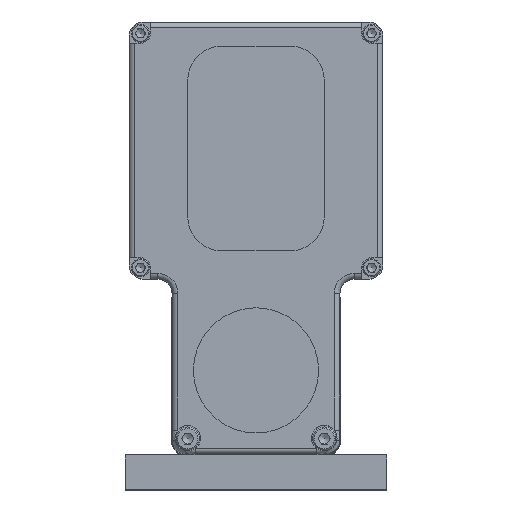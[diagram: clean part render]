
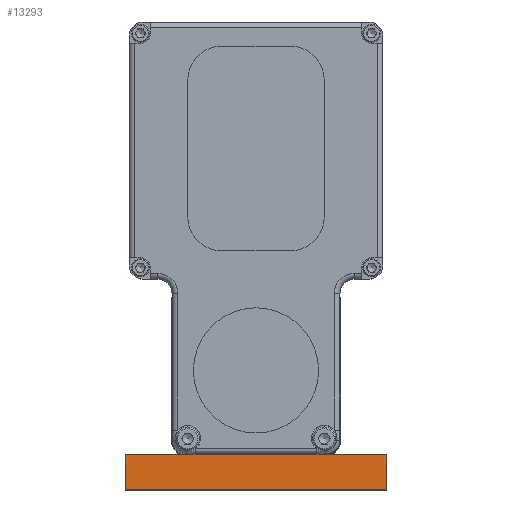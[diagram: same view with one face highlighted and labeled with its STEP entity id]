
A CAD part, top view. The second image highlights one B-rep face of the part: STEP entity #13293.
In plain terms, the highlighted planar face has unit normal (0, 0, 1).
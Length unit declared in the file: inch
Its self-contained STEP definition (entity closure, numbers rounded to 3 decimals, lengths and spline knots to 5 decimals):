
#574 = EDGE_CURVE ( 'NONE', #2268, #8802, #10968, .T. ) ;
#807 = DIRECTION ( 'NONE',  ( 0., 1., 0. ) ) ;
#844 = ORIENTED_EDGE ( 'NONE', *, *, #10986, .T. ) ;
#955 = ORIENTED_EDGE ( 'NONE', *, *, #2572, .F. ) ;
#1400 = VECTOR ( 'NONE', #807, 39.37008 ) ;
#2062 = PLANE ( 'NONE',  #5114 ) ;
#2268 = VERTEX_POINT ( 'NONE', #7571 ) ;
#2572 = EDGE_CURVE ( 'NONE', #9099, #8802, #9094, .T. ) ;
#3357 = ORIENTED_EDGE ( 'NONE', *, *, #574, .T. ) ;
#3705 = EDGE_CURVE ( 'NONE', #16477, #9099, #11307, .T. ) ;
#4000 = CARTESIAN_POINT ( 'NONE',  ( 2.875, -0.75, 0.875 ) ) ;
#5114 = AXIS2_PLACEMENT_3D ( 'NONE', #25308, #6133, #22789 ) ;
#5340 = EDGE_LOOP ( 'NONE', ( #3357, #955, #13345, #844 ) ) ;
#6133 = DIRECTION ( 'NONE',  ( 0., 0., -1. ) ) ;
#6633 = DIRECTION ( 'NONE',  ( -1., 0., 0. ) ) ;
#6678 = CARTESIAN_POINT ( 'NONE',  ( -2.875, 0., 0.875 ) ) ;
#7105 = DIRECTION ( 'NONE',  ( -1., 0., 0. ) ) ;
#7571 = CARTESIAN_POINT ( 'NONE',  ( 2.875, 0., 0.875 ) ) ;
#8242 = FACE_OUTER_BOUND ( 'NONE', #5340, .T. ) ;
#8329 = CARTESIAN_POINT ( 'NONE',  ( 2.875, -0.75, 0.875 ) ) ;
#8802 = VERTEX_POINT ( 'NONE', #6678 ) ;
#9094 = LINE ( 'NONE', #23939, #1400 ) ;
#9099 = VERTEX_POINT ( 'NONE', #16935 ) ;
#10968 = LINE ( 'NONE', #17273, #22472 ) ;
#10986 = EDGE_CURVE ( 'NONE', #16477, #2268, #27541, .T. ) ;
#11307 = LINE ( 'NONE', #20124, #26028 ) ;
#13293 = ADVANCED_FACE ( 'NONE', ( #8242 ), #2062, .F. ) ;
#13345 = ORIENTED_EDGE ( 'NONE', *, *, #3705, .F. ) ;
#16477 = VERTEX_POINT ( 'NONE', #8329 ) ;
#16935 = CARTESIAN_POINT ( 'NONE',  ( -2.875, -0.75, 0.875 ) ) ;
#17273 = CARTESIAN_POINT ( 'NONE',  ( 2.875, 0., 0.875 ) ) ;
#20124 = CARTESIAN_POINT ( 'NONE',  ( 2.875, -0.75, 0.875 ) ) ;
#22472 = VECTOR ( 'NONE', #6633, 39.37008 ) ;
#22789 = DIRECTION ( 'NONE',  ( 1., 0., 0. ) ) ;
#23056 = DIRECTION ( 'NONE',  ( 0., 1., 0. ) ) ;
#23939 = CARTESIAN_POINT ( 'NONE',  ( -2.875, -0.75, 0.875 ) ) ;
#25308 = CARTESIAN_POINT ( 'NONE',  ( 2.875, -0.75, 0.875 ) ) ;
#26028 = VECTOR ( 'NONE', #7105, 39.37008 ) ;
#26057 = VECTOR ( 'NONE', #23056, 39.37008 ) ;
#27541 = LINE ( 'NONE', #4000, #26057 ) ;
